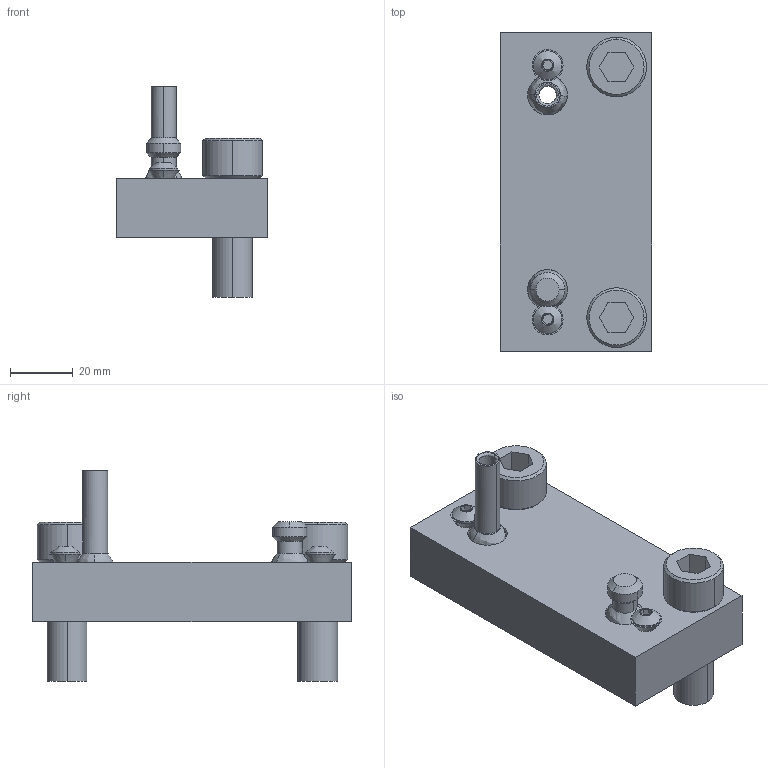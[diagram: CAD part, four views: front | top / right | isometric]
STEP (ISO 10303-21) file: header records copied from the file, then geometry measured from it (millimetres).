
FILE_DESCRIPTION (( 'STEP AP203' ), '1' );
FILE_NAME ('04-0786, CB20.STEP', '2022-07-18T17:20:31', ( '' ), ( '' ), 'SwSTEP 2.0', 'SolidWorks 2021', '' );
FILE_SCHEMA (( 'CONFIG_CONTROL_DESIGN' ));
Length unit declared in the file: inch
Products named in the file (1): 04-0786, CB20
Bounding box: 48.26 x 101.6 x 67.28 mm (x, y, z)
Surface area: 26687.4 mm2 (no closed solid volume)
Topology: 0 solids, 11 shells, 109 faces, 298 edges, 196 vertices
Faces by surface type: plane 49, cylinder 34, cone 16, bspline 10
Entity records: 4359 total; most frequent: CARTESIAN_POINT 1532, DIRECTION 594, ORIENTED_EDGE 530, EDGE_CURVE 290, AXIS2_PLACEMENT_3D 222, VERTEX_POINT 196, VECTOR 150, LINE 150
